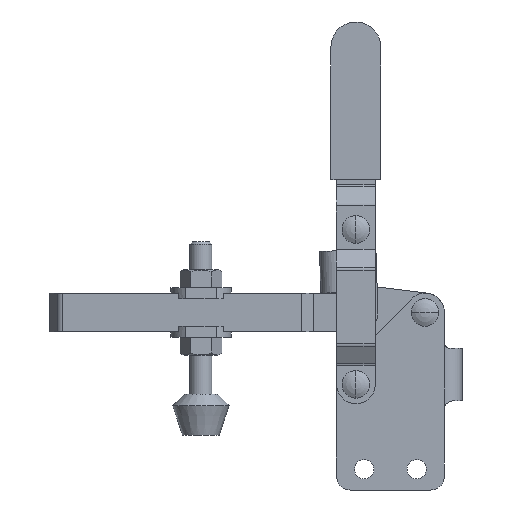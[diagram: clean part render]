
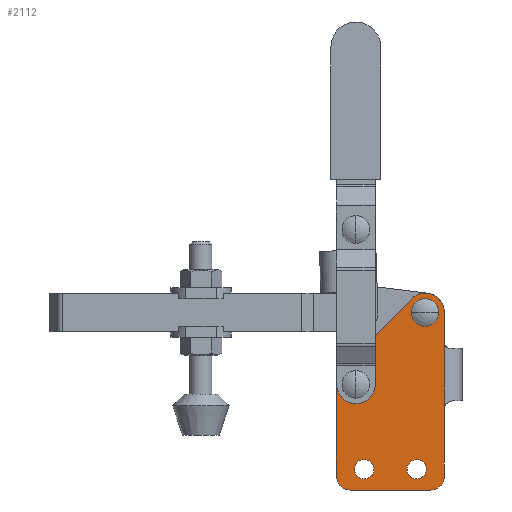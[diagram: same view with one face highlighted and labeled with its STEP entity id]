
A CAD part, front view. The second image highlights one B-rep face of the part: STEP entity #2112.
In plain terms, the highlighted planar face has unit normal (0, -1, 0).
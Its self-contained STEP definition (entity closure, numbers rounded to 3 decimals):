
#1939=CARTESIAN_POINT('Axis2P3D Location',(88.013,-6.4,0.)) ;
#1944=CARTESIAN_POINT('Line Origine',(88.013,-6.4,17.1)) ;
#1948=CARTESIAN_POINT('Cartesian Point',(88.013,-6.4,5.)) ;
#1950=CARTESIAN_POINT('Cartesian Point',(88.013,-6.4,29.2)) ;
#1954=CARTESIAN_POINT('Control Point',(88.013,-6.4,52.972)) ;
#1955=CARTESIAN_POINT('Control Point',(88.013,-6.4,29.2)) ;
#1956=CARTESIAN_POINT('Cartesian Point',(88.026,-6.4,52.972)) ;
#1960=CARTESIAN_POINT('Control Point',(88.013,-6.4,53.2)) ;
#1961=CARTESIAN_POINT('Control Point',(88.013,-6.4,52.972)) ;
#1962=CARTESIAN_POINT('Cartesian Point',(88.013,-6.4,53.2)) ;
#1965=CARTESIAN_POINT('Line Origine',(88.013,-6.4,58.7)) ;
#1969=CARTESIAN_POINT('Cartesian Point',(88.013,-6.4,64.2)) ;
#1972=CARTESIAN_POINT('Axis2P3D Location',(81.013,-6.4,64.2)) ;
#1976=CARTESIAN_POINT('Cartesian Point',(81.044,-6.4,71.2)) ;
#1979=CARTESIAN_POINT('Axis2P3D Location',(81.013,-6.4,64.2)) ;
#1983=CARTESIAN_POINT('Cartesian Point',(75.967,-6.4,69.052)) ;
#1986=CARTESIAN_POINT('Line Origine',(63.467,-6.4,56.052)) ;
#1990=CARTESIAN_POINT('Cartesian Point',(50.967,-6.4,43.052)) ;
#1993=CARTESIAN_POINT('Axis2P3D Location',(56.013,-6.4,38.2)) ;
#1997=CARTESIAN_POINT('Cartesian Point',(49.013,-6.4,38.2)) ;
#2000=CARTESIAN_POINT('Line Origine',(49.013,-6.4,21.6)) ;
#2004=CARTESIAN_POINT('Cartesian Point',(49.013,-6.4,5.)) ;
#2007=CARTESIAN_POINT('Axis2P3D Location',(54.013,-6.4,5.)) ;
#2011=CARTESIAN_POINT('Cartesian Point',(54.013,-6.4,0.)) ;
#2014=CARTESIAN_POINT('Line Origine',(68.513,-6.4,0.)) ;
#2018=CARTESIAN_POINT('Cartesian Point',(83.013,-6.4,0.)) ;
#2021=CARTESIAN_POINT('Axis2P3D Location',(83.013,-6.4,5.)) ;
#2040=CARTESIAN_POINT('Axis2P3D Location',(78.013,-6.4,7.5)) ;
#2044=CARTESIAN_POINT('Cartesian Point',(78.013,-6.4,4.)) ;
#2046=CARTESIAN_POINT('Cartesian Point',(78.013,-6.4,11.)) ;
#2049=CARTESIAN_POINT('Axis2P3D Location',(78.013,-6.4,7.5)) ;
#2058=CARTESIAN_POINT('Axis2P3D Location',(59.013,-6.4,7.5)) ;
#2062=CARTESIAN_POINT('Cartesian Point',(59.013,-6.4,4.)) ;
#2064=CARTESIAN_POINT('Cartesian Point',(59.013,-6.4,11.)) ;
#2067=CARTESIAN_POINT('Axis2P3D Location',(59.013,-6.4,7.5)) ;
#2076=CARTESIAN_POINT('Axis2P3D Location',(81.013,-6.4,64.2)) ;
#2080=CARTESIAN_POINT('Cartesian Point',(81.013,-6.4,61.)) ;
#2082=CARTESIAN_POINT('Cartesian Point',(81.013,-6.4,67.4)) ;
#2085=CARTESIAN_POINT('Axis2P3D Location',(81.013,-6.4,64.2)) ;
#2094=CARTESIAN_POINT('Axis2P3D Location',(56.013,-6.4,38.2)) ;
#2098=CARTESIAN_POINT('Cartesian Point',(56.013,-6.4,35.)) ;
#2100=CARTESIAN_POINT('Cartesian Point',(56.013,-6.4,41.4)) ;
#2103=CARTESIAN_POINT('Axis2P3D Location',(56.013,-6.4,38.2)) ;
#1940=DIRECTION('Axis2P3D Direction',(0.,1.,0.)) ;
#1941=DIRECTION('Axis2P3D XDirection',(0.,0.,-1.)) ;
#1945=DIRECTION('Vector Direction',(0.,0.,1.)) ;
#1966=DIRECTION('Vector Direction',(0.,0.,1.)) ;
#1973=DIRECTION('Axis2P3D Direction',(0.,1.,0.)) ;
#1980=DIRECTION('Axis2P3D Direction',(0.,1.,0.)) ;
#1987=DIRECTION('Vector Direction',(-0.693,0.,-0.721)) ;
#1994=DIRECTION('Axis2P3D Direction',(0.,1.,0.)) ;
#2001=DIRECTION('Vector Direction',(0.,0.,1.)) ;
#2008=DIRECTION('Axis2P3D Direction',(0.,1.,0.)) ;
#2015=DIRECTION('Vector Direction',(1.,0.,0.)) ;
#2022=DIRECTION('Axis2P3D Direction',(0.,1.,0.)) ;
#2041=DIRECTION('Axis2P3D Direction',(0.,1.,0.)) ;
#2050=DIRECTION('Axis2P3D Direction',(0.,1.,0.)) ;
#2059=DIRECTION('Axis2P3D Direction',(0.,1.,0.)) ;
#2068=DIRECTION('Axis2P3D Direction',(0.,1.,0.)) ;
#2077=DIRECTION('Axis2P3D Direction',(0.,1.,0.)) ;
#2086=DIRECTION('Axis2P3D Direction',(0.,1.,0.)) ;
#2095=DIRECTION('Axis2P3D Direction',(0.,1.,0.)) ;
#2104=DIRECTION('Axis2P3D Direction',(0.,1.,0.)) ;
#1942=AXIS2_PLACEMENT_3D('Plane Axis2P3D',#1939,#1940,#1941) ;
#1974=AXIS2_PLACEMENT_3D('Circle Axis2P3D',#1972,#1973,$) ;
#1981=AXIS2_PLACEMENT_3D('Circle Axis2P3D',#1979,#1980,$) ;
#1995=AXIS2_PLACEMENT_3D('Circle Axis2P3D',#1993,#1994,$) ;
#2009=AXIS2_PLACEMENT_3D('Circle Axis2P3D',#2007,#2008,$) ;
#2023=AXIS2_PLACEMENT_3D('Circle Axis2P3D',#2021,#2022,$) ;
#2042=AXIS2_PLACEMENT_3D('Circle Axis2P3D',#2040,#2041,$) ;
#2051=AXIS2_PLACEMENT_3D('Circle Axis2P3D',#2049,#2050,$) ;
#2060=AXIS2_PLACEMENT_3D('Circle Axis2P3D',#2058,#2059,$) ;
#2069=AXIS2_PLACEMENT_3D('Circle Axis2P3D',#2067,#2068,$) ;
#2078=AXIS2_PLACEMENT_3D('Circle Axis2P3D',#2076,#2077,$) ;
#2087=AXIS2_PLACEMENT_3D('Circle Axis2P3D',#2085,#2086,$) ;
#2096=AXIS2_PLACEMENT_3D('Circle Axis2P3D',#2094,#2095,$) ;
#2105=AXIS2_PLACEMENT_3D('Circle Axis2P3D',#2103,#2104,$) ;
#2027=ORIENTED_EDGE('Oriented Edge',*,*,#1952,.T.) ;
#2028=ORIENTED_EDGE('Oriented Edge',*,*,#1958,.F.) ;
#2029=ORIENTED_EDGE('Oriented Edge',*,*,#1964,.F.) ;
#2030=ORIENTED_EDGE('Oriented Edge',*,*,#1971,.T.) ;
#2031=ORIENTED_EDGE('Oriented Edge',*,*,#1978,.T.) ;
#2032=ORIENTED_EDGE('Oriented Edge',*,*,#1985,.T.) ;
#2033=ORIENTED_EDGE('Oriented Edge',*,*,#1992,.T.) ;
#2034=ORIENTED_EDGE('Oriented Edge',*,*,#1999,.T.) ;
#2035=ORIENTED_EDGE('Oriented Edge',*,*,#2006,.F.) ;
#2036=ORIENTED_EDGE('Oriented Edge',*,*,#2013,.T.) ;
#2037=ORIENTED_EDGE('Oriented Edge',*,*,#2020,.T.) ;
#2038=ORIENTED_EDGE('Oriented Edge',*,*,#2025,.T.) ;
#2055=ORIENTED_EDGE('Oriented Edge',*,*,#2048,.T.) ;
#2056=ORIENTED_EDGE('Oriented Edge',*,*,#2053,.T.) ;
#2073=ORIENTED_EDGE('Oriented Edge',*,*,#2066,.T.) ;
#2074=ORIENTED_EDGE('Oriented Edge',*,*,#2071,.T.) ;
#2091=ORIENTED_EDGE('Oriented Edge',*,*,#2084,.T.) ;
#2092=ORIENTED_EDGE('Oriented Edge',*,*,#2089,.T.) ;
#2109=ORIENTED_EDGE('Oriented Edge',*,*,#2102,.T.) ;
#2110=ORIENTED_EDGE('Oriented Edge',*,*,#2107,.T.) ;
#2057=FACE_BOUND('Face Bound',#2054,.T.) ;
#2075=FACE_BOUND('Face Bound',#2072,.T.) ;
#2093=FACE_BOUND('Face Bound',#2090,.T.) ;
#2111=FACE_BOUND('Face Bound',#2108,.T.) ;
#1946=VECTOR('Line Direction',#1945,1.) ;
#1967=VECTOR('Line Direction',#1966,1.) ;
#1988=VECTOR('Line Direction',#1987,1.) ;
#2002=VECTOR('Line Direction',#2001,1.) ;
#2016=VECTOR('Line Direction',#2015,1.) ;
#2112=ADVANCED_FACE('',(#2039,#2057,#2075,#2093,#2111),#1943,.F.) ;
#1953=B_SPLINE_CURVE_WITH_KNOTS('BSpline Curve',1,(#1954,#1955),.UNSPECIFIED.,.F.,.U.,(2,2),(0.,23.772),.UNSPECIFIED.) ;
#1959=B_SPLINE_CURVE_WITH_KNOTS('BSpline Curve',1,(#1960,#1961),.UNSPECIFIED.,.F.,.U.,(2,2),(0.,0.228),.UNSPECIFIED.) ;
#1975=CIRCLE('generated circle',#1974,7.) ;
#1982=CIRCLE('generated circle',#1981,7.) ;
#1996=CIRCLE('generated circle',#1995,7.) ;
#2010=CIRCLE('generated circle',#2009,5.) ;
#2024=CIRCLE('generated circle',#2023,5.) ;
#2043=CIRCLE('generated circle',#2042,3.5) ;
#2052=CIRCLE('generated circle',#2051,3.5) ;
#2061=CIRCLE('generated circle',#2060,3.5) ;
#2070=CIRCLE('generated circle',#2069,3.5) ;
#2079=CIRCLE('generated circle',#2078,3.2) ;
#2088=CIRCLE('generated circle',#2087,3.2) ;
#2097=CIRCLE('generated circle',#2096,3.2) ;
#2106=CIRCLE('generated circle',#2105,3.2) ;
#1952=EDGE_CURVE('',#1949,#1951,#1947,.T.) ;
#1958=EDGE_CURVE('',#1957,#1951,#1953,.T.) ;
#1964=EDGE_CURVE('',#1963,#1957,#1959,.T.) ;
#1971=EDGE_CURVE('',#1963,#1970,#1968,.T.) ;
#1978=EDGE_CURVE('',#1970,#1977,#1975,.F.) ;
#1985=EDGE_CURVE('',#1977,#1984,#1982,.F.) ;
#1992=EDGE_CURVE('',#1984,#1991,#1989,.T.) ;
#1999=EDGE_CURVE('',#1991,#1998,#1996,.F.) ;
#2006=EDGE_CURVE('',#2005,#1998,#2003,.T.) ;
#2013=EDGE_CURVE('',#2005,#2012,#2010,.F.) ;
#2020=EDGE_CURVE('',#2012,#2019,#2017,.T.) ;
#2025=EDGE_CURVE('',#2019,#1949,#2024,.F.) ;
#2048=EDGE_CURVE('',#2045,#2047,#2043,.T.) ;
#2053=EDGE_CURVE('',#2047,#2045,#2052,.T.) ;
#2066=EDGE_CURVE('',#2063,#2065,#2061,.T.) ;
#2071=EDGE_CURVE('',#2065,#2063,#2070,.T.) ;
#2084=EDGE_CURVE('',#2081,#2083,#2079,.T.) ;
#2089=EDGE_CURVE('',#2083,#2081,#2088,.T.) ;
#2102=EDGE_CURVE('',#2099,#2101,#2097,.T.) ;
#2107=EDGE_CURVE('',#2101,#2099,#2106,.T.) ;
#2026=EDGE_LOOP('Oriented Loop',(#2027,#2028,#2029,#2030,#2031,#2032,#2033,#2034,#2035,#2036,#2037,#2038)) ;
#2054=EDGE_LOOP('Oriented Loop',(#2055,#2056)) ;
#2072=EDGE_LOOP('Oriented Loop',(#2073,#2074)) ;
#2090=EDGE_LOOP('Oriented Loop',(#2091,#2092)) ;
#2108=EDGE_LOOP('Oriented Loop',(#2109,#2110)) ;
#2039=FACE_OUTER_BOUND('Face Bound',#2026,.T.) ;
#1947=LINE('Line',#1944,#1946) ;
#1968=LINE('Line',#1965,#1967) ;
#1989=LINE('Line',#1986,#1988) ;
#2003=LINE('Line',#2000,#2002) ;
#2017=LINE('Line',#2014,#2016) ;
#1943=PLANE('Plane',#1942) ;
#1949=VERTEX_POINT('Vertex Point',#1948) ;
#1951=VERTEX_POINT('Vertex Point',#1950) ;
#1957=VERTEX_POINT('Vertex Point',#1956) ;
#1963=VERTEX_POINT('Vertex Point',#1962) ;
#1970=VERTEX_POINT('Vertex Point',#1969) ;
#1977=VERTEX_POINT('Vertex Point',#1976) ;
#1984=VERTEX_POINT('Vertex Point',#1983) ;
#1991=VERTEX_POINT('Vertex Point',#1990) ;
#1998=VERTEX_POINT('Vertex Point',#1997) ;
#2005=VERTEX_POINT('Vertex Point',#2004) ;
#2012=VERTEX_POINT('Vertex Point',#2011) ;
#2019=VERTEX_POINT('Vertex Point',#2018) ;
#2045=VERTEX_POINT('Vertex Point',#2044) ;
#2047=VERTEX_POINT('Vertex Point',#2046) ;
#2063=VERTEX_POINT('Vertex Point',#2062) ;
#2065=VERTEX_POINT('Vertex Point',#2064) ;
#2081=VERTEX_POINT('Vertex Point',#2080) ;
#2083=VERTEX_POINT('Vertex Point',#2082) ;
#2099=VERTEX_POINT('Vertex Point',#2098) ;
#2101=VERTEX_POINT('Vertex Point',#2100) ;
